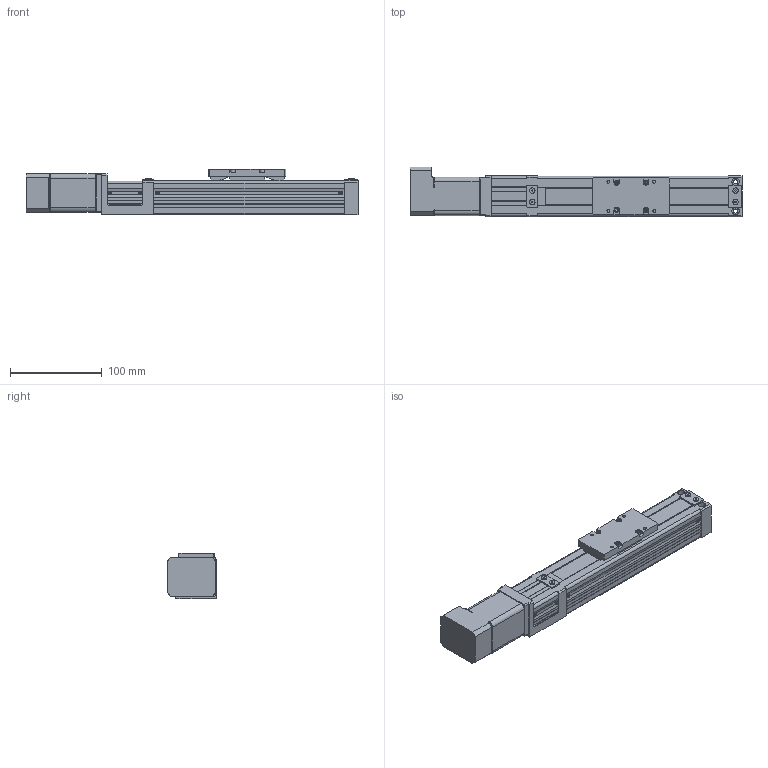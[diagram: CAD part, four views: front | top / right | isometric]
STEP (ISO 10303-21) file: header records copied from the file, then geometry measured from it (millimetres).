
FILE_DESCRIPTION((''),'2;1');
FILE_NAME('D:\製品 (図面)\カタログ用3D\SU部品\SU45×50\ダウンロード用\SU45×50-CM18\SU45×50-100-CM18.stp','2011-03-30T14:06:42',('Tsuchiya'),(''),'Autodesk Inventor 10','Autodesk Inventor 10','');
FILE_SCHEMA(('AUTOMOTIVE_DESIGN { 1 0 10303 214 1 1 1 1 }'));
Length unit declared in the file: millimetre
Products named in the file (4): SU45×50-100-CM18; SU45×50-100-CM181; SU45×50-100-CM182; SU45×50-100-CM183
Assembly tree (3 placements, depth 2):
  SU45×50-100-CM18
    SU45×50-100-CM181
    SU45×50-100-CM182
    SU45×50-100-CM183
Bounding box: 362.5 x 54.5 x 50 mm (x, y, z)
Volume: 374118.1 mm3; surface area: 141681.4 mm2
Topology: 3 solids, 5 shells, 735 faces, 1965 edges, 1292 vertices
Faces by surface type: plane 544, cylinder 103, bspline 52, torus 22, cone 14
Full cylindrical faces by diameter (mm): 2.459 x4, 3.242 x4, 3.4 x4, 4 x2, 4.5 x6, 5 x5, 6 x5, 7 x6, 8 x7, 10 x1, 20 x1, 22 x2, 30 x1
Entity records: 22572 total; most frequent: CARTESIAN_POINT 4900, ORIENTED_EDGE 3606, DIRECTION 3424, EDGE_CURVE 1803, VECTOR 1394, LINE 1394, VERTEX_POINT 1243, AXIS2_PLACEMENT_3D 1015
